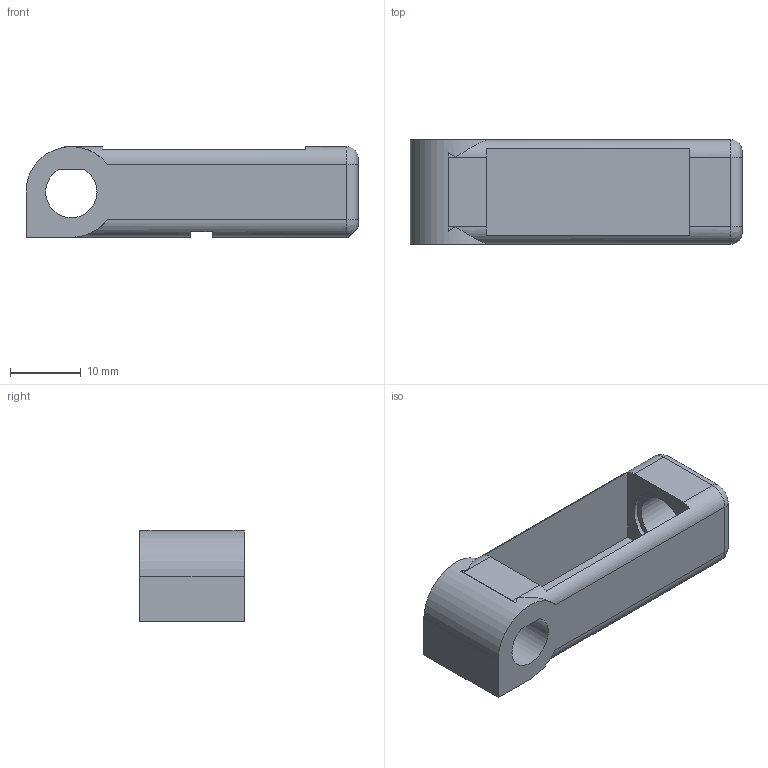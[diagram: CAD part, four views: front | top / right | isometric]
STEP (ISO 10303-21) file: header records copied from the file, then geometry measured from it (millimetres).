
FILE_DESCRIPTION(('Open CASCADE Model'),'2;1');
FILE_NAME('Open CASCADE Shape Model','2026-11-07T02:16:31',('Author'),( 'Open CASCADE'),'Open CASCADE STEP processor 8.0','build123d', 'Unknown');
FILE_SCHEMA(('AUTOMOTIVE_DESIGN { 1 0 10303 214 1 1 1 1 }'));
Length unit declared in the file: millimetre
Products named in the file (1): COMPOUND
Bounding box: 46.87 x 14.8 x 12.8 mm (x, y, z)
Volume: 3322.6 mm3; surface area: 4000 mm2
Topology: 1 solids, 1 shells, 43 faces, 111 edges, 70 vertices
Faces by surface type: plane 21, cylinder 18, revolution 4
Full cylindrical faces by diameter (mm): 8.15 x1, 9.8 x1, 10.4 x1
Entity records: 3585 total; most frequent: CARTESIAN_POINT 1464, DIRECTION 364, ORIENTED_EDGE 222, PCURVE 222, DEFINITIONAL_REPRESENTATION 222, LINE 186, VECTOR 186, EDGE_CURVE 111
